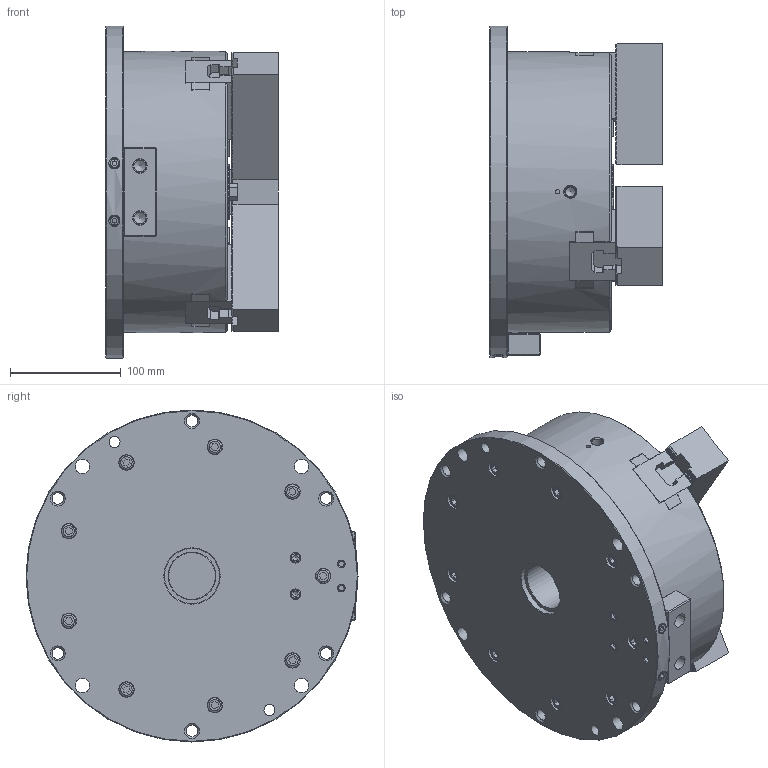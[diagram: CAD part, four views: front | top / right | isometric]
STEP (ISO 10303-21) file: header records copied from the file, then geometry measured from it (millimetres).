
FILE_DESCRIPTION (( 'STEP AP214' ), '1' );
FILE_NAME ('AS10_61P223323_UC.STEP', '2020-03-19T05:53:22', ( '' ), ( '' ), 'SwSTEP 2.0', 'SolidWorks 2017', '' );
FILE_SCHEMA (( 'AUTOMOTIVE_DESIGN' ));
Length unit declared in the file: millimetre
Products named in the file (18): 61P400852_TNUT; Part1^61P223323_AS10_ASSY; B傾僫僣僉 M12亊352_~35; 61P300113_SOFTJAW; Part1^61P223323_AS10_ASSY_蹬怮椔; AS10_61P223323_UC; 61P300113_SOFTJAW_蹬怮椔; 61P400852_TNUT_蹬怮椔; B傾僫僣僉 M12亊352_~35_棉太倌TI佱UA
Assembly tree (13 placements, depth 2):
  61P400852_TNUT
  Part1^61P223323_AS10_ASSY
  B傾僫僣僉 M12亊352_~35
  B傾僫僣僉 M12亊352_~35
  61P300113_SOFTJAW
Bounding box: 156.2 x 300 x 300 mm (x, y, z)
Volume: 6259713.8 mm3; surface area: 435743.6 mm2
Topology: 13 solids, 52 shells, 4182 faces, 11608 edges, 7645 vertices
Faces by surface type: plane 3021, cylinder 933, cone 149, bspline 70, torus 7, sphere 2
Full cylindrical faces by diameter (mm): 1.9 x1, 4 x1, 5 x2, 6 x8, 6.6 x2, 6.8 x6, 8 x12, 8.5 x3, 8.8 x8, 9.5 x3, 10 x15, 10.5 x6, 10.7 x2, 11 x2, 12 x12, 13 x19, 14 x9, 15 x1, 18 x6, 19 x6, 43 x1, 50 x2, 254 x1, 300 x1
Entity records: 91520 total; most frequent: CARTESIAN_POINT 19629, ORIENTED_EDGE 15014, DIRECTION 14254, EDGE_CURVE 7507, VECTOR 5780, LINE 5780, VERTEX_POINT 5024, AXIS2_PLACEMENT_3D 4237
